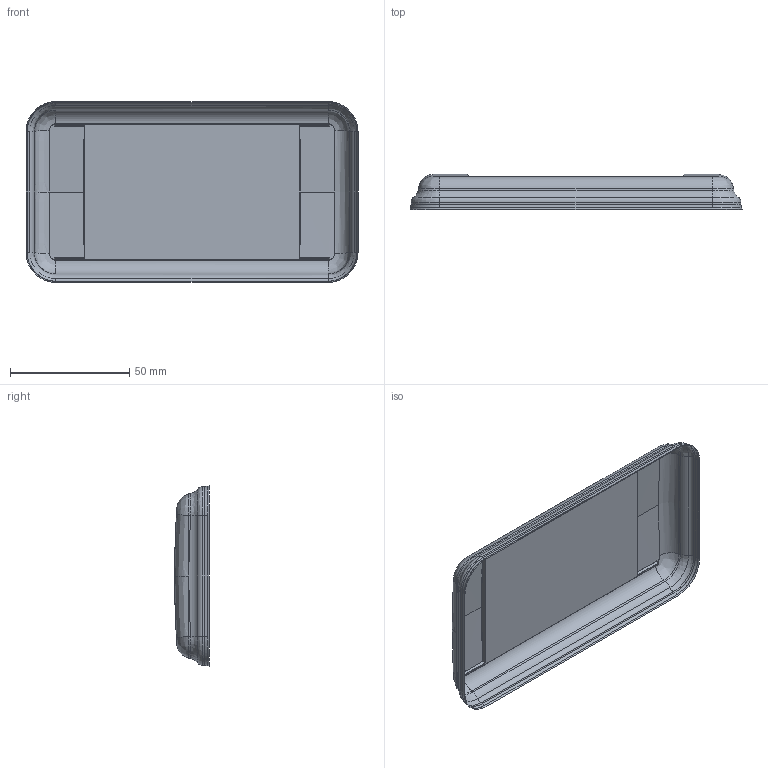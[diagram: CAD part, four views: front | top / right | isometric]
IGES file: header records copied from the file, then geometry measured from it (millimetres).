
Start section: SolidWorks IGES file using analytic representation for surfaces
Global section: file name: C:\Working\1015\1015 oem DRAWING\105 TOP INTERNAL GEOMETRY..IGS; native system: SolidWorks 2007; preprocessor: SolidWorks 2007; author: mhakami; date: 090811.173039; units: inch
Bounding box: 139.49 x 14.69 x 75.99 mm (x, y, z)
Surface area: 14761.1 mm2 (no closed solid volume)
Topology: 0 solids, 0 shells, 124 faces, 676 edges, 660 vertices
Faces by surface type: bspline 64, revolution 60
